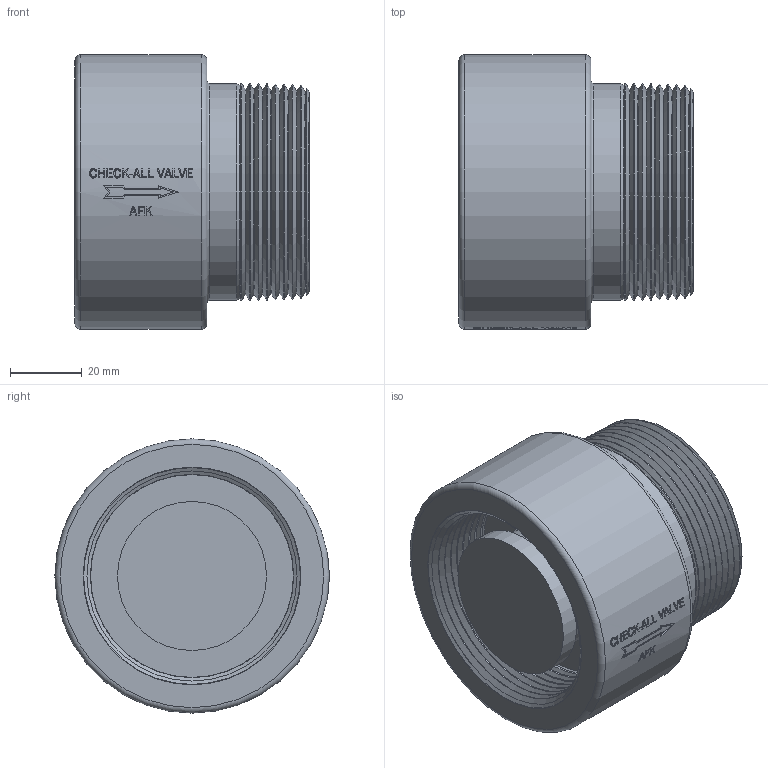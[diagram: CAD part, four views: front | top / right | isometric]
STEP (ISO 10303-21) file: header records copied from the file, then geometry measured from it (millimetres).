
FILE_DESCRIPTION(/* description */ ('Unknown'),/* implementation_level */ '2;1');
FILE_NAME(/* name */ 'AFKXXOR.500XX-WEB',/* time_stamp */ '2022-10-03T11:55:36-05:00',/* author */ ('Unknown'),/* organization */ ('Unknown'),/* preprocessor_version */ 'ST-DEVELOPER v18.102',/* originating_system */ 'Solid Edge',/* authorisation */ 'Unknown');
FILE_SCHEMA (('AUTOMOTIVE_DESIGN {1 0 10303 214 3 1 1}'));
Length unit declared in the file: inch
Products named in the file (1): AFKXXOR.500XX-WEB
Bounding box: 65.02 x 76.2 x 76.2 mm (x, y, z)
Volume: 209083.3 mm3; surface area: 33920.1 mm2
Topology: 1 solids, 2 shells, 284 faces, 713 edges, 458 vertices
Faces by surface type: plane 167, cone 63, cylinder 42, torus 7, bspline 4, sphere 1
Full cylindrical faces by diameter (mm): 35.179 x1, 41.402 x1, 48.057 x1, 56.365 x7, 60.325 x3, 76.2 x1
Entity records: 10880 total; most frequent: CARTESIAN_POINT 2834, ORIENTED_EDGE 1206, DIRECTION 1140, EDGE_CURVE 603, AXIS2_PLACEMENT_3D 459, VERTEX_POINT 432, EDGE_LOOP 395, FACE_BOUND 395
